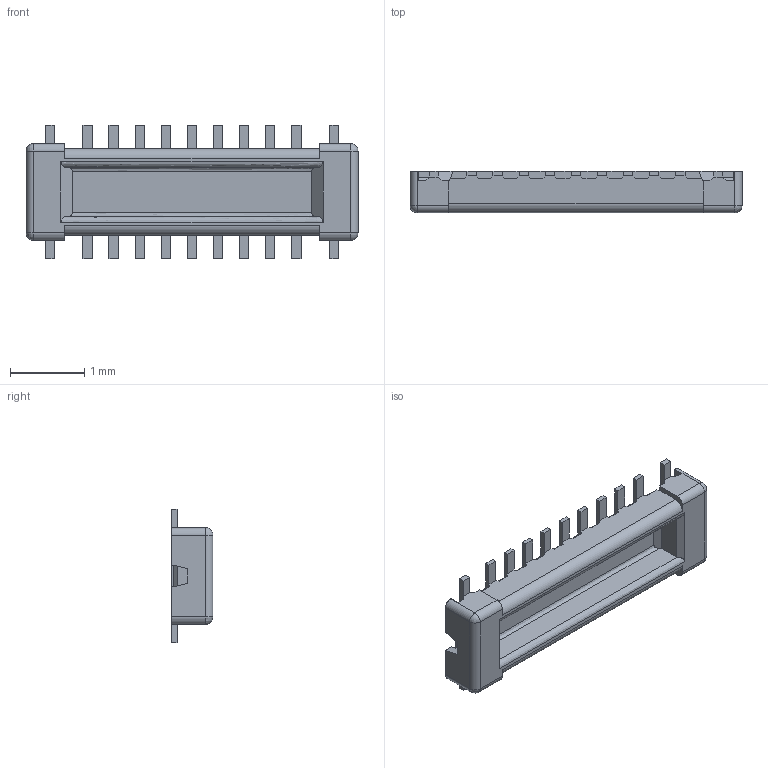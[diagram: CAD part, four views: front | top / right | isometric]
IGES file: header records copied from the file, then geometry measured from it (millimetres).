
Start section: SolidWorks IGES file using analytic representation for surfaces
Global section: file name: _exported\20708-018E-01 PLUG ASSY IGES R1 ALL.IGS; native system: SolidWorks 2023; preprocessor: SolidWorks 2023; author: 83197; date: 250221.135246; units: millimetre
Bounding box: 4.46 x 0.56 x 1.8 mm (x, y, z)
Surface area: 23 mm2 (no closed solid volume)
Topology: 0 solids, 0 shells, 269 faces, 1544 edges, 1540 vertices
Faces by surface type: bspline 249, revolution 20
